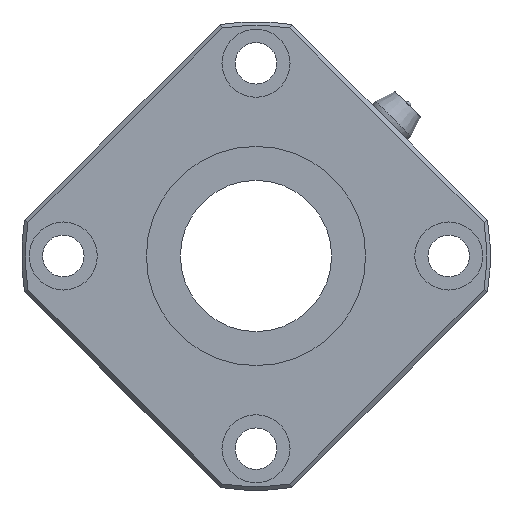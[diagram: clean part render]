
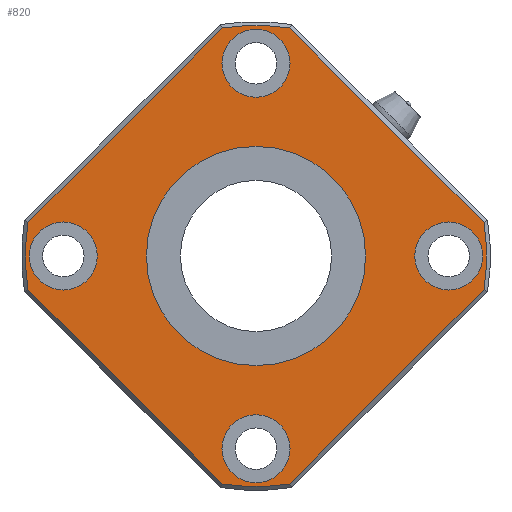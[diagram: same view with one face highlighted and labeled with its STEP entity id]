
A CAD part, left-side view. The second image highlights one B-rep face of the part: STEP entity #820.
In plain terms, the highlighted planar face has unit normal (-1, 0, 0).
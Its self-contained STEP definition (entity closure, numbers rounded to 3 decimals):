
#499=CARTESIAN_POINT('',(0.0,-30.169,-4.479));
#500=VERTEX_POINT('',#499);
#508=CARTESIAN_POINT('',(0.0,-4.479,-30.169));
#509=VERTEX_POINT('',#508);
#510=CARTESIAN_POINT('',(0.0,-30.169,-4.479));
#511=DIRECTION('',(0.0,0.707,-0.707));
#512=VECTOR('',#511,36.332);
#513=LINE('',#510,#512);
#514=EDGE_CURVE('',#500,#509,#513,.T.);
#541=CARTESIAN_POINT('',(0.0,4.479,-30.169));
#542=VERTEX_POINT('',#541);
#543=CARTESIAN_POINT('',(0.0,0.0,0.0));
#544=DIRECTION('',(1.0,0.0,0.0));
#545=DIRECTION('',(0.0,0.0,-1.0));
#546=AXIS2_PLACEMENT_3D('',#543,#544,#545);
#547=CIRCLE('',#546,30.5);
#548=EDGE_CURVE('',#509,#542,#547,.T.);
#572=CARTESIAN_POINT('',(0.0,30.169,-4.479));
#573=VERTEX_POINT('',#572);
#574=CARTESIAN_POINT('',(0.0,4.479,-30.169));
#575=DIRECTION('',(0.0,0.707,0.707));
#576=VECTOR('',#575,36.332);
#577=LINE('',#574,#576);
#578=EDGE_CURVE('',#542,#573,#577,.T.);
#597=CARTESIAN_POINT('',(0.0,30.169,4.479));
#598=VERTEX_POINT('',#597);
#599=CARTESIAN_POINT('',(0.0,0.0,0.0));
#600=DIRECTION('',(1.0,0.0,0.0));
#601=DIRECTION('',(0.0,0.0,1.0));
#602=AXIS2_PLACEMENT_3D('',#599,#600,#601);
#603=CIRCLE('',#602,30.5);
#604=EDGE_CURVE('',#573,#598,#603,.T.);
#623=CARTESIAN_POINT('',(0.0,4.479,30.169));
#624=VERTEX_POINT('',#623);
#625=CARTESIAN_POINT('',(0.0,30.169,4.479));
#626=DIRECTION('',(0.0,-0.707,0.707));
#627=VECTOR('',#626,36.332);
#628=LINE('',#625,#627);
#629=EDGE_CURVE('',#598,#624,#628,.T.);
#648=CARTESIAN_POINT('',(0.0,-4.479,30.169));
#649=VERTEX_POINT('',#648);
#650=CARTESIAN_POINT('',(0.0,0.0,0.0));
#651=DIRECTION('',(1.0,0.0,0.0));
#652=DIRECTION('',(0.0,0.0,1.0));
#653=AXIS2_PLACEMENT_3D('',#650,#651,#652);
#654=CIRCLE('',#653,30.5);
#655=EDGE_CURVE('',#624,#649,#654,.T.);
#674=CARTESIAN_POINT('',(0.0,-30.169,4.479));
#675=VERTEX_POINT('',#674);
#676=CARTESIAN_POINT('',(0.0,-4.479,30.169));
#677=DIRECTION('',(0.0,-0.707,-0.707));
#678=VECTOR('',#677,36.332);
#679=LINE('',#676,#678);
#680=EDGE_CURVE('',#649,#675,#679,.T.);
#705=CARTESIAN_POINT('',(0.0,0.0,0.0));
#706=DIRECTION('',(1.0,0.0,0.0));
#707=DIRECTION('',(0.0,0.0,1.0));
#708=AXIS2_PLACEMENT_3D('',#705,#706,#707);
#709=CIRCLE('',#708,30.5);
#710=EDGE_CURVE('',#675,#500,#709,.T.);
#750=CARTESIAN_POINT('',(0.0,0.0,17.25));
#751=DIRECTION('',(-1.0,0.0,0.0));
#752=DIRECTION('',(0.0,0.0,1.0));
#753=AXIS2_PLACEMENT_3D('',#750,#751,#752);
#754=PLANE('',#753);
#755=ORIENTED_EDGE('',*,*,#514,.F.);
#756=ORIENTED_EDGE('',*,*,#710,.F.);
#757=ORIENTED_EDGE('',*,*,#680,.F.);
#758=ORIENTED_EDGE('',*,*,#655,.F.);
#759=ORIENTED_EDGE('',*,*,#629,.F.);
#760=ORIENTED_EDGE('',*,*,#604,.F.);
#761=ORIENTED_EDGE('',*,*,#578,.F.);
#762=ORIENTED_EDGE('',*,*,#548,.F.);
#763=EDGE_LOOP('',(#755,#756,#757,#758,#759,#760,#761,#762));
#764=FACE_OUTER_BOUND('',#763,.T.);
#765=CARTESIAN_POINT('',(0.0,0.0,14.5));
#766=VERTEX_POINT('',#765);
#767=CARTESIAN_POINT('',(0.0,0.0,0.0));
#768=DIRECTION('',(-1.0,0.0,0.0));
#769=DIRECTION('',(0.0,0.0,1.0));
#770=AXIS2_PLACEMENT_3D('',#767,#768,#769);
#771=CIRCLE('',#770,14.5);
#772=EDGE_CURVE('',#766,#766,#771,.T.);
#773=ORIENTED_EDGE('',*,*,#772,.F.);
#774=EDGE_LOOP('',(#773));
#775=FACE_BOUND('',#774,.T.);
#776=CARTESIAN_POINT('',(0.0,-21.0,0.));
#777=VERTEX_POINT('',#776);
#778=CARTESIAN_POINT('',(0.0,-25.5,0.));
#779=DIRECTION('',(1.0,0.0,0.0));
#780=DIRECTION('',(0.0,1.0,0.0));
#781=AXIS2_PLACEMENT_3D('',#778,#779,#780);
#782=CIRCLE('',#781,4.5);
#783=EDGE_CURVE('',#777,#777,#782,.T.);
#784=ORIENTED_EDGE('',*,*,#783,.T.);
#785=EDGE_LOOP('',(#784));
#786=FACE_BOUND('',#785,.T.);
#787=CARTESIAN_POINT('',(0.0,30.,0.));
#788=VERTEX_POINT('',#787);
#789=CARTESIAN_POINT('',(0.0,25.5,0.));
#790=DIRECTION('',(1.0,0.0,0.0));
#791=DIRECTION('',(0.0,1.0,0.0));
#792=AXIS2_PLACEMENT_3D('',#789,#790,#791);
#793=CIRCLE('',#792,4.5);
#794=EDGE_CURVE('',#788,#788,#793,.T.);
#795=ORIENTED_EDGE('',*,*,#794,.T.);
#796=EDGE_LOOP('',(#795));
#797=FACE_BOUND('',#796,.T.);
#798=CARTESIAN_POINT('',(0.0,4.5,25.5));
#799=VERTEX_POINT('',#798);
#800=CARTESIAN_POINT('',(0.0,0.,25.5));
#801=DIRECTION('',(1.0,0.0,0.0));
#802=DIRECTION('',(0.0,1.0,0.0));
#803=AXIS2_PLACEMENT_3D('',#800,#801,#802);
#804=CIRCLE('',#803,4.5);
#805=EDGE_CURVE('',#799,#799,#804,.T.);
#806=ORIENTED_EDGE('',*,*,#805,.T.);
#807=EDGE_LOOP('',(#806));
#808=FACE_BOUND('',#807,.T.);
#809=CARTESIAN_POINT('',(0.0,4.5,-25.5));
#810=VERTEX_POINT('',#809);
#811=CARTESIAN_POINT('',(0.0,0.,-25.5));
#812=DIRECTION('',(1.0,0.0,0.0));
#813=DIRECTION('',(0.0,1.0,0.0));
#814=AXIS2_PLACEMENT_3D('',#811,#812,#813);
#815=CIRCLE('',#814,4.5);
#816=EDGE_CURVE('',#810,#810,#815,.T.);
#817=ORIENTED_EDGE('',*,*,#816,.T.);
#818=EDGE_LOOP('',(#817));
#819=FACE_BOUND('',#818,.T.);
#820=ADVANCED_FACE('',(#764,#775,#786,#797,#808,#819),#754,.T.);
